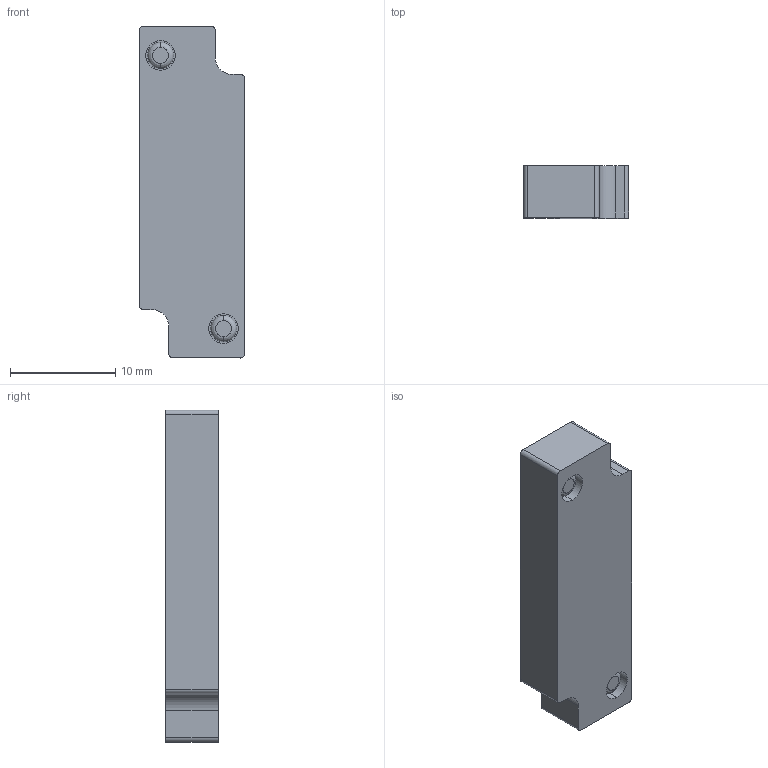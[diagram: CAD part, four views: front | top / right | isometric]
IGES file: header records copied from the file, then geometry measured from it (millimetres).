
Start section: ------------------------------------------------------------------------
Global section: file name: D:\ICADMX\tmp\trans3d_spg\CVICAD02.21404.F10_A1_15061.igs; native system: spGate; preprocessor: ver12.6.6; author: Unknown; organization: Unknown; date: 200901.145732; units: millimetre
Bounding box: 10 x 5 x 31.6 mm (x, y, z)
Volume: 1447.5 mm3; surface area: 1008.2 mm2
Topology: 1 solids, 1 shells, 30 faces, 72 edges, 48 vertices
Faces by surface type: bspline 30
